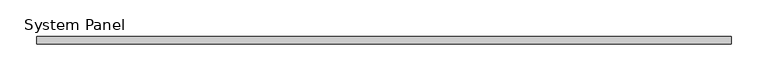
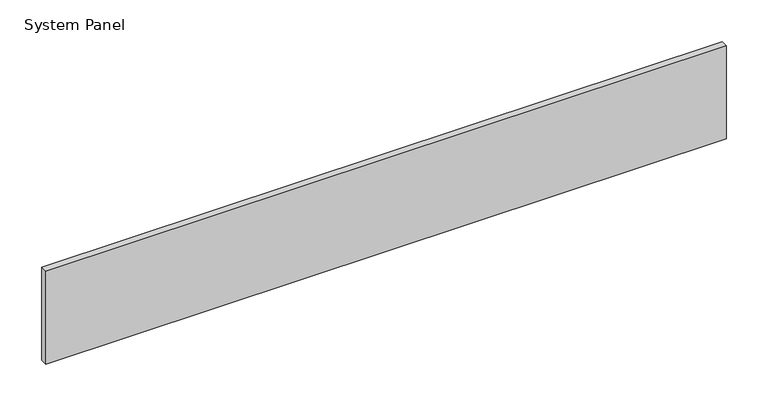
"""IFC4 building model written with IfcOpenShell, lengths in millimetres: plate geometry, System Panel : VACÍO."""

from ifc_helpers import new_model, si_unit, origin, origin_with_axes, place, context, project, spatial, polyline, outline, extrude, source, transform, mapped, element, save


def system_panel_c5bd44f4(model_context):
    return source(origin(), model_context, "Body", "SweptSolid", [
        extrude(outline(polyline([(470.6021733, -5.0), (-470.6021733, -5.0), (-470.6021733, 5.0), (470.6021733, 5.0), (470.6021733, -5.0)])), origin_with_axes(), (0.0, 0.0, 1.0), 136.0),
    ])


if __name__ == "__main__":
    model = new_model("IFC4")
    model_context = context("Model", 3, world=origin())
    ifc_project = project(units=[si_unit("LENGTHUNIT", "METRE", prefix="MILLI")], contexts=[model_context])
    site = spatial("IfcSite", under=ifc_project)
    building = spatial("IfcBuilding", under=site)
    placement = place(None, origin())
    system_panel_shape = system_panel_c5bd44f4(model_context)
    element("IfcPlate", 1, ObjectType="System Panel : VACÍO", at=placement, inside=building, context=model_context, shape_type="MappedRepresentation", body=[
        mapped(system_panel_shape, transform((0.0, 0.0, 0.0), x_axis=(1.0, 0.0, 0.0), y_axis=(0.0, 1.0, 0.0), z_axis=(0.0, 0.0, 1.0))),
    ])
    save(model, "model.ifc")
